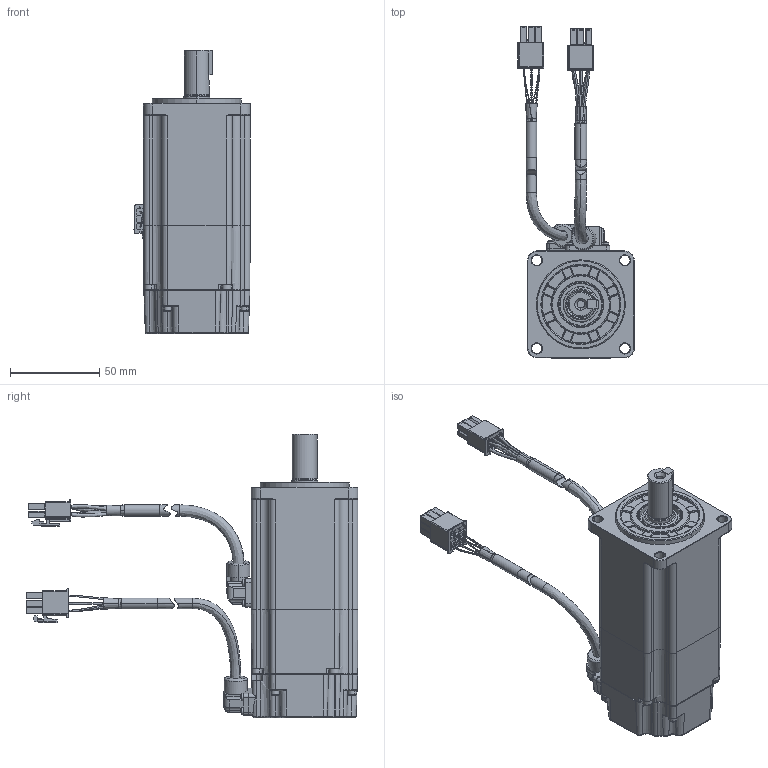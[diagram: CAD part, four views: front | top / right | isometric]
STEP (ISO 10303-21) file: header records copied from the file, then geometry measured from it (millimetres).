
FILE_DESCRIPTION (( 'STEP AP214' ), '1' );
FILE_NAME ('60µç»ú_PM2M-04A60S8E.STEP', '2023-03-29T06:17:37', ( '' ), ( '' ), 'SwSTEP 2.0', 'SolidWorks 2020', '' );
FILE_SCHEMA (( 'AUTOMOTIVE_DESIGN' ));
Length unit declared in the file: millimetre
Products named in the file (1): 60萇儂_PM2M-04A60S8E
Bounding box: 65.46 x 186.5 x 159.5 mm (x, y, z)
Surface area: 53878.5 mm2 (no closed solid volume)
Topology: 0 solids, 56 shells, 1296 faces, 4308 edges, 2953 vertices
Faces by surface type: plane 540, cylinder 352, cone 167, torus 126, bspline 82, sphere 29
Entity records: 66881 total; most frequent: CARTESIAN_POINT 16083, DIRECTION 7680, ORIENTED_EDGE 6916, EDGE_CURVE 4286, VERTEX_POINT 2953, AXIS2_PLACEMENT_3D 2646, VECTOR 2388, LINE 2388
